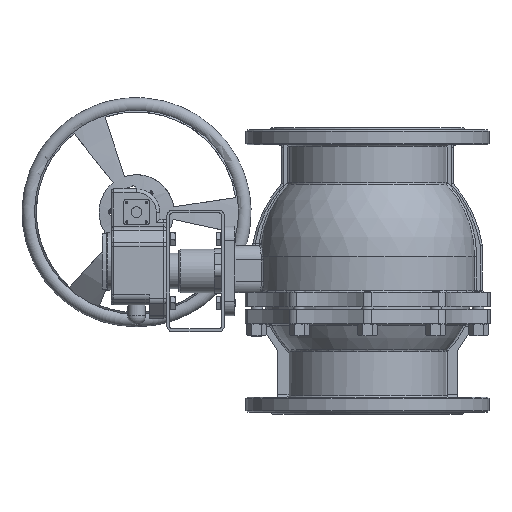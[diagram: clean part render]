
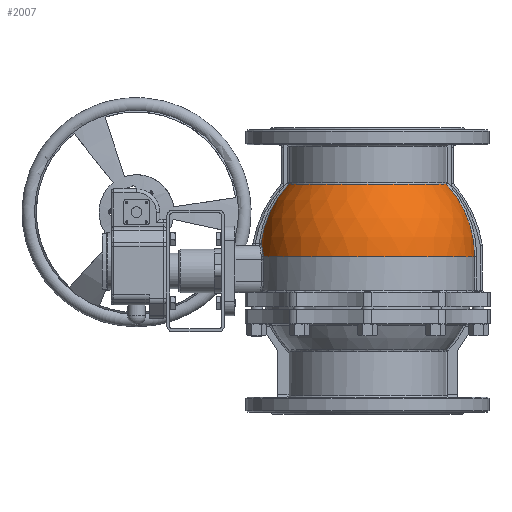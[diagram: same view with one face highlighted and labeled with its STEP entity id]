
A CAD part, left-side view. The second image highlights one B-rep face of the part: STEP entity #2007.
In plain terms, the highlighted spherical face has radius 150 mm.
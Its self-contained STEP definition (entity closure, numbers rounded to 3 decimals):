
#2007=ADVANCED_FACE('',(#11599),#11601,.T.);
#11599=FACE_BOUND('',#11600,.T.);
#11600=EDGE_LOOP('',(#33959,#33960,#33961,#33962,#33963,#33964));
#11601=SPHERICAL_SURFACE('',#11602,150.);
#11602=AXIS2_PLACEMENT_3D('',#11603,#11604,#11605);
#11603=CARTESIAN_POINT('',(0.,0.,20.178));
#11604=DIRECTION('',(0.,0.,1.));
#11605=DIRECTION('',(-1.,0.,0.));
#33959=ORIENTED_EDGE('',*,*,#41257,.F.);
#33960=ORIENTED_EDGE('',*,*,#41258,.F.);
#33961=ORIENTED_EDGE('',*,*,#41259,.F.);
#33962=ORIENTED_EDGE('',*,*,#41260,.F.);
#33963=ORIENTED_EDGE('',*,*,#41261,.F.);
#33964=ORIENTED_EDGE('',*,*,#41087,.F.);
#41087=EDGE_CURVE('',#45764,#45766,#45767,.T.);
#41257=EDGE_CURVE('',#46060,#45764,#46062,.T.);
#41258=EDGE_CURVE('',#46063,#46060,#46064,.T.);
#41259=EDGE_CURVE('',#46065,#46063,#46066,.T.);
#41260=EDGE_CURVE('',#46067,#46065,#46068,.T.);
#41261=EDGE_CURVE('',#45766,#46067,#46069,.T.);
#45764=VERTEX_POINT('',#61357);
#45766=VERTEX_POINT('',#61361);
#45767=CIRCLE('',#61362,150.);
#46060=VERTEX_POINT('',#62655);
#46062=CIRCLE('',#62660,149.458);
#46063=VERTEX_POINT('',#62664);
#46064=CIRCLE('',#62665,110.784);
#46065=VERTEX_POINT('',#62669);
#46066=CIRCLE('',#62670,149.458);
#46067=VERTEX_POINT('',#62674);
#46068=CIRCLE('',#62675,148.927);
#46069=B_SPLINE_CURVE_WITH_KNOTS('',3,
(#62679,#62680,#62681,#62682,#62683,#62684,#62685,#62686,#62687,#62688,#62689,#62690,
#62691,#62692,#62693,#62694,#62695,#62696,#62697,#62698,#62699,#62700,#62701,#62702,
#62703,#62704,#62705,#62706,#62707,#62708,#62709,#62710,#62711,#62712,#62713,#62714,
#62715,#62716,#62717,#62718,#62719,#62720,#62721,#62722,#62723,#62724,#62725,#62726,
#62727,#62728,#62729,#62730,#62731,#62732,#62733,#62734,#62735,#62736,#62737,#62738,
#62739,#62740,#62741,#62742,#62743,#62744,#62745,#62746,#62747,#62748,#62749,#62750,
#62751),
.UNSPECIFIED.,.F.,.F.,
(4,1,1,1,1,1,1,1,1,1,1,1,1,1,1,1,1,1,1,1,1,1,1,1,1,1,1,1,1,1,1,1,1,1,1,1,1,1,1,1,
1,1,1,1,1,1,1,1,1,1,1,1,1,1,1,1,1,1,1,1,1,1,1,1,1,1,1,1,1,1,4),
(0.,0.012,0.024,0.037,0.05,0.064,
0.079,0.094,0.11,0.125,0.141,
0.157,0.172,0.188,0.204,0.218,
0.232,0.246,0.259,0.271,0.283,
0.295,0.307,0.32,0.333,0.347,
0.367,0.388,0.409,0.425,0.441,
0.456,0.472,0.487,0.502,0.516,
0.53,0.542,0.554,0.566,0.578,
0.59,0.603,0.616,0.63,0.651,
0.673,0.697,0.716,0.736,0.755,
0.775,0.794,0.813,0.83,0.847,
0.863,0.877,0.89,0.902,0.912,
0.922,0.932,0.941,0.95,0.958,
0.967,0.975,0.984,0.992,1.),
.UNSPECIFIED.);
#61357=CARTESIAN_POINT('',(-12.745,-149.458,20.178));
#61361=CARTESIAN_POINT('',(-36.772,145.423,20.178));
#61362=AXIS2_PLACEMENT_3D('',#61363,#61364,#61365);
#61363=CARTESIAN_POINT('',(0.,0.,20.178));
#61364=DIRECTION('',(0.,0.,-1.));
#61365=DIRECTION('',(-0.085,-0.996,0.));
#62655=CARTESIAN_POINT('',(-12.745,-110.049,121.306));
#62660=AXIS2_PLACEMENT_3D('',#62661,#62662,#62663);
#62661=CARTESIAN_POINT('',(-12.745,0.,20.178));
#62662=DIRECTION('',(1.,0.,0.));
#62663=DIRECTION('',(0.,-0.736,0.677));
#62664=CARTESIAN_POINT('',(-12.745,110.049,121.306));
#62665=AXIS2_PLACEMENT_3D('',#62666,#62667,#62668);
#62666=CARTESIAN_POINT('',(0.,0.,121.306));
#62667=DIRECTION('',(0.,0.,1.));
#62668=DIRECTION('',(-0.115,0.993,0.));
#62669=CARTESIAN_POINT('',(-12.745,148.381,38.086));
#62670=AXIS2_PLACEMENT_3D('',#62671,#62672,#62673);
#62671=CARTESIAN_POINT('',(-12.745,0.,20.178));
#62672=DIRECTION('',(1.,0.,0.));
#62673=DIRECTION('',(0.,0.993,0.12));
#62674=CARTESIAN_POINT('',(-14.706,148.199,38.086));
#62675=AXIS2_PLACEMENT_3D('',#62676,#62677,#62678);
#62676=CARTESIAN_POINT('',(0.,0.,38.086));
#62677=DIRECTION('',(0.,0.,-1.));
#62678=DIRECTION('',(-0.099,0.995,0.));
#62679=CARTESIAN_POINT('',(-36.772,145.423,20.178));
#62680=CARTESIAN_POINT('',(-36.746,145.43,20.296));
#62681=CARTESIAN_POINT('',(-36.69,145.443,20.535));
#62682=CARTESIAN_POINT('',(-36.602,145.464,20.9));
#62683=CARTESIAN_POINT('',(-36.505,145.486,21.281));
#62684=CARTESIAN_POINT('',(-36.398,145.509,21.678));
#62685=CARTESIAN_POINT('',(-36.278,145.534,22.094));
#62686=CARTESIAN_POINT('',(-36.145,145.561,22.524));
#62687=CARTESIAN_POINT('',(-35.996,145.59,22.968));
#62688=CARTESIAN_POINT('',(-35.833,145.621,23.418));
#62689=CARTESIAN_POINT('',(-35.659,145.653,23.869));
#62690=CARTESIAN_POINT('',(-35.475,145.686,24.317));
#62691=CARTESIAN_POINT('',(-35.281,145.72,24.762));
#62692=CARTESIAN_POINT('',(-35.078,145.754,25.202));
#62693=CARTESIAN_POINT('',(-34.868,145.789,25.633));
#62694=CARTESIAN_POINT('',(-34.652,145.824,26.052));
#62695=CARTESIAN_POINT('',(-34.437,145.859,26.451));
#62696=CARTESIAN_POINT('',(-34.222,145.892,26.831));
#62697=CARTESIAN_POINT('',(-34.011,145.925,27.188));
#62698=CARTESIAN_POINT('',(-33.803,145.957,27.525));
#62699=CARTESIAN_POINT('',(-33.6,145.987,27.844));
#62700=CARTESIAN_POINT('',(-33.396,146.018,28.151));
#62701=CARTESIAN_POINT('',(-33.187,146.048,28.455));
#62702=CARTESIAN_POINT('',(-32.968,146.08,28.762));
#62703=CARTESIAN_POINT('',(-32.733,146.114,29.081));
#62704=CARTESIAN_POINT('',(-32.482,146.15,29.409));
#62705=CARTESIAN_POINT('',(-32.177,146.192,29.793));
#62706=CARTESIAN_POINT('',(-31.817,146.242,30.223));
#62707=CARTESIAN_POINT('',(-31.399,146.299,30.697));
#62708=CARTESIAN_POINT('',(-30.998,146.353,31.127));
#62709=CARTESIAN_POINT('',(-30.621,146.403,31.511));
#62710=CARTESIAN_POINT('',(-30.274,146.449,31.849));
#62711=CARTESIAN_POINT('',(-29.921,146.495,32.179));
#62712=CARTESIAN_POINT('',(-29.564,146.541,32.499));
#62713=CARTESIAN_POINT('',(-29.208,146.586,32.804));
#62714=CARTESIAN_POINT('',(-28.86,146.63,33.091));
#62715=CARTESIAN_POINT('',(-28.52,146.673,33.36));
#62716=CARTESIAN_POINT('',(-28.193,146.713,33.608));
#62717=CARTESIAN_POINT('',(-27.877,146.752,33.84));
#62718=CARTESIAN_POINT('',(-27.572,146.79,34.056));
#62719=CARTESIAN_POINT('',(-27.271,146.826,34.261));
#62720=CARTESIAN_POINT('',(-26.967,146.863,34.461));
#62721=CARTESIAN_POINT('',(-26.652,146.901,34.661));
#62722=CARTESIAN_POINT('',(-26.318,146.941,34.865));
#62723=CARTESIAN_POINT('',(-25.964,146.983,35.073));
#62724=CARTESIAN_POINT('',(-25.531,147.034,35.316));
#62725=CARTESIAN_POINT('',(-25.012,147.095,35.592));
#62726=CARTESIAN_POINT('',(-24.395,147.166,35.896));
#62727=CARTESIAN_POINT('',(-23.788,147.236,36.173));
#62728=CARTESIAN_POINT('',(-23.201,147.302,36.42));
#62729=CARTESIAN_POINT('',(-22.646,147.364,36.636));
#62730=CARTESIAN_POINT('',(-22.079,147.427,36.841));
#62731=CARTESIAN_POINT('',(-21.51,147.49,37.029));
#62732=CARTESIAN_POINT('',(-20.948,147.551,37.199));
#62733=CARTESIAN_POINT('',(-20.403,147.61,37.349));
#62734=CARTESIAN_POINT('',(-19.876,147.667,37.481));
#62735=CARTESIAN_POINT('',(-19.378,147.72,37.592));
#62736=CARTESIAN_POINT('',(-18.91,147.769,37.687));
#62737=CARTESIAN_POINT('',(-18.485,147.814,37.764));
#62738=CARTESIAN_POINT('',(-18.092,147.855,37.827));
#62739=CARTESIAN_POINT('',(-17.735,147.892,37.879));
#62740=CARTESIAN_POINT('',(-17.402,147.927,37.922));
#62741=CARTESIAN_POINT('',(-17.097,147.958,37.957));
#62742=CARTESIAN_POINT('',(-16.807,147.988,37.987));
#62743=CARTESIAN_POINT('',(-16.527,148.016,38.012));
#62744=CARTESIAN_POINT('',(-16.253,148.044,38.033));
#62745=CARTESIAN_POINT('',(-15.985,148.071,38.05));
#62746=CARTESIAN_POINT('',(-15.722,148.098,38.063));
#62747=CARTESIAN_POINT('',(-15.464,148.124,38.072));
#62748=CARTESIAN_POINT('',(-15.208,148.149,38.079));
#62749=CARTESIAN_POINT('',(-14.956,148.175,38.084));
#62750=CARTESIAN_POINT('',(-14.789,148.191,38.086));
#62751=CARTESIAN_POINT('',(-14.706,148.199,38.086));
